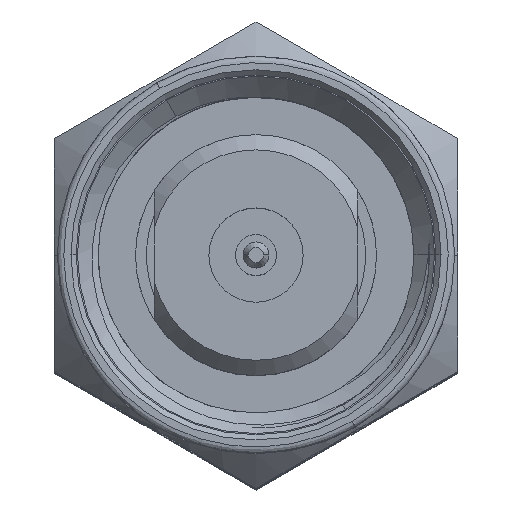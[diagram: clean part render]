
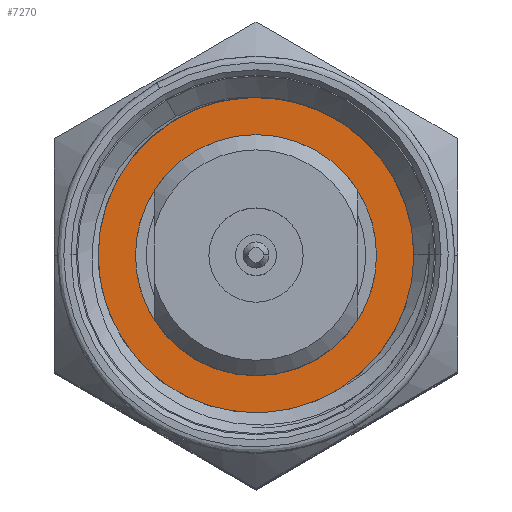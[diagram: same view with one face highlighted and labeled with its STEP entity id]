
A CAD part, top view. The second image highlights one B-rep face of the part: STEP entity #7270.
In plain terms, the highlighted planar face has unit normal (0, 0, 1).
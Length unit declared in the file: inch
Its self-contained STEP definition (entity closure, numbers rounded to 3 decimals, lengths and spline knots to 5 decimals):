
#132 = ORIENTED_EDGE ( 'NONE', *, *, #14540, .F. ) ;
#987 = DIRECTION ( 'NONE',  ( 0., 0., 1. ) ) ;
#1427 = AXIS2_PLACEMENT_3D ( 'NONE', #17512, #10162, #5657 ) ;
#1695 = DIRECTION ( 'NONE',  ( 1., 0., 0. ) ) ;
#1920 = ORIENTED_EDGE ( 'NONE', *, *, #17952, .F. ) ;
#2591 = CARTESIAN_POINT ( 'NONE',  ( 0.125, 0., 0.13071 ) ) ;
#2641 = FACE_BOUND ( 'NONE', #8411, .T. ) ;
#2684 = EDGE_CURVE ( 'NONE', #8481, #13214, #12921, .T. ) ;
#3219 = ORIENTED_EDGE ( 'NONE', *, *, #2684, .F. ) ;
#4311 = CARTESIAN_POINT ( 'NONE',  ( 0., 0., 0.13071 ) ) ;
#4352 = CARTESIAN_POINT ( 'NONE',  ( 0., 0., 0.13071 ) ) ;
#4875 = AXIS2_PLACEMENT_3D ( 'NONE', #4311, #11646, #17814 ) ;
#5151 = CARTESIAN_POINT ( 'NONE',  ( -0.09311, 0., 0.13071 ) ) ;
#5220 = EDGE_LOOP ( 'NONE', ( #14815, #1920 ) ) ;
#5657 = DIRECTION ( 'NONE',  ( -1., 0., 0. ) ) ;
#5917 = DIRECTION ( 'NONE',  ( 1., 0., 0. ) ) ;
#6939 = CARTESIAN_POINT ( 'NONE',  ( 0., 0., 0.13071 ) ) ;
#7000 = AXIS2_PLACEMENT_3D ( 'NONE', #6939, #987, #7137 ) ;
#7137 = DIRECTION ( 'NONE',  ( 1., 0., 0. ) ) ;
#7234 = PLANE ( 'NONE',  #1427 ) ;
#7270 = ADVANCED_FACE ( 'NONE', ( #14678, #2641 ), #7234, .F. ) ;
#7444 = CIRCLE ( 'NONE', #12431, 0.09311 ) ;
#8318 = CIRCLE ( 'NONE', #9251, 0.125 ) ;
#8411 = EDGE_LOOP ( 'NONE', ( #132, #3219 ) ) ;
#8481 = VERTEX_POINT ( 'NONE', #5151 ) ;
#8665 = DIRECTION ( 'NONE',  ( 0., 0., 1. ) ) ;
#9251 = AXIS2_PLACEMENT_3D ( 'NONE', #15472, #12146, #1695 ) ;
#9476 = EDGE_CURVE ( 'NONE', #15929, #11222, #8318, .T. ) ;
#10162 = DIRECTION ( 'NONE',  ( 0., 0., -1. ) ) ;
#10777 = CARTESIAN_POINT ( 'NONE',  ( 0.09311, 0., 0.13071 ) ) ;
#11222 = VERTEX_POINT ( 'NONE', #16793 ) ;
#11646 = DIRECTION ( 'NONE',  ( 0., 0., -1. ) ) ;
#12146 = DIRECTION ( 'NONE',  ( 0., 0., -1. ) ) ;
#12431 = AXIS2_PLACEMENT_3D ( 'NONE', #4352, #8665, #5917 ) ;
#12921 = CIRCLE ( 'NONE', #7000, 0.09311 ) ;
#13214 = VERTEX_POINT ( 'NONE', #10777 ) ;
#13318 = CIRCLE ( 'NONE', #4875, 0.125 ) ;
#14540 = EDGE_CURVE ( 'NONE', #13214, #8481, #7444, .T. ) ;
#14678 = FACE_OUTER_BOUND ( 'NONE', #5220, .T. ) ;
#14815 = ORIENTED_EDGE ( 'NONE', *, *, #9476, .F. ) ;
#15472 = CARTESIAN_POINT ( 'NONE',  ( 0., 0., 0.13071 ) ) ;
#15929 = VERTEX_POINT ( 'NONE', #2591 ) ;
#16793 = CARTESIAN_POINT ( 'NONE',  ( -0.125, 0., 0.13071 ) ) ;
#17512 = CARTESIAN_POINT ( 'NONE',  ( 0.09311, 0., 0.13071 ) ) ;
#17814 = DIRECTION ( 'NONE',  ( 1., 0., 0. ) ) ;
#17952 = EDGE_CURVE ( 'NONE', #11222, #15929, #13318, .T. ) ;
